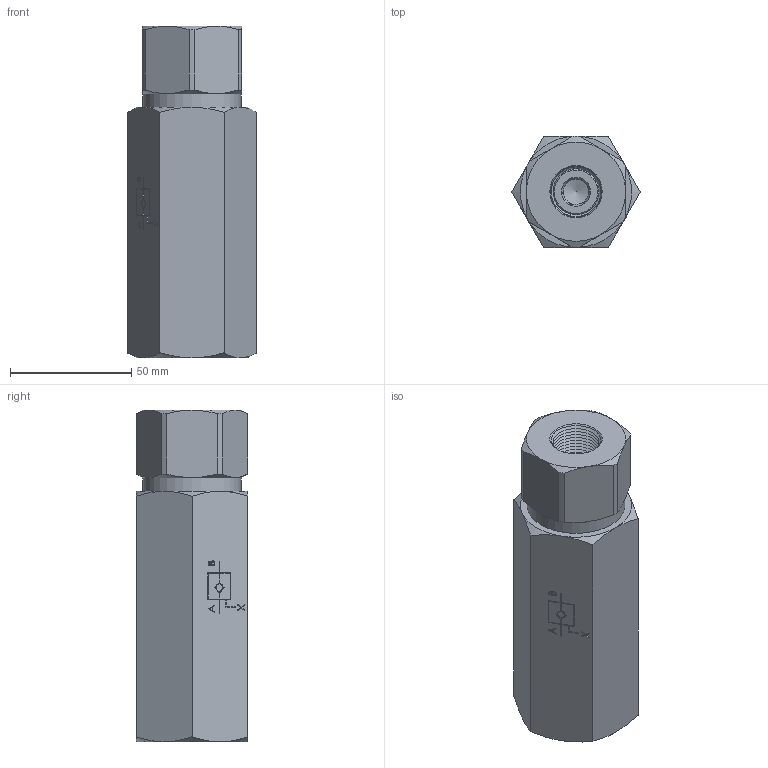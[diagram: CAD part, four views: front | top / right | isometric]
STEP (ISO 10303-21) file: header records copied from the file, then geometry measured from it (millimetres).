
FILE_DESCRIPTION (( 'STEP AP214' ), '1' );
FILE_NAME ('2257-7-12.STEP', '2025-01-23T09:43:07', ( '' ), ( '' ), 'SwSTEP 2.0', 'SolidWorks 2024', '' );
FILE_SCHEMA (( 'AUTOMOTIVE_DESIGN' ));
Length unit declared in the file: millimetre
Products named in the file (9): 2257-7-12; VALVOLA TENUTA METALLICA 2257-5.008.00.1-12; FONDELLO FILETTATO 2257-5.010.00.0-12; ASSIEME 2257-7.041.00.0-12; CORPO VALVOLA 2257-7.001.00.0-12; PISTONE PILOTAGGIO 2257-7.019.00.0-12; OR 3118; MOLLA 2 BAR  257-6.009.00.0-12_COMPRESSA; CONNESSIONE UNIDIREZIONALE 2257-7.033.00.0-12
Assembly tree (8 placements, depth 3):
  2257-7-12
    CORPO VALVOLA 2257-7.001.00.0-12
    ASSIEME 2257-7.041.00.0-12
      CONNESSIONE UNIDIREZIONALE 2257-7.033.00.0-12
      FONDELLO FILETTATO 2257-5.010.00.0-12
      VALVOLA TENUTA METALLICA 2257-5.008.00.1-12
      MOLLA 2 BAR  257-6.009.00.0-12_COMPRESSA
    OR 3118
    PISTONE PILOTAGGIO 2257-7.019.00.0-12
Bounding box: 53.12 x 46 x 137 mm (x, y, z)
Volume: 200368.2 mm3; surface area: 61021.1 mm2
Topology: 7 solids, 7 shells, 645 faces, 1564 edges, 979 vertices
Faces by surface type: plane 291, cone 211, cylinder 79, bspline 61, torus 3
Full cylindrical faces by diameter (mm): 3.024 x1, 4 x6, 5.5 x1, 5.86 x4, 10.75 x1, 11 x2, 14 x1, 15.2 x3, 15.3 x1, 15.5 x1, 16 x5, 18 x4, 18.5 x6, 19 x2, 19.5 x1, 20.783 x4, 21.5 x1, 24.5 x1, 29.2 x3, 30 x6, 31 x3, 40.5 x1
Entity records: 22855 total; most frequent: CARTESIAN_POINT 9106, DIRECTION 2602, ORIENTED_EDGE 2554, EDGE_CURVE 1277, AXIS2_PLACEMENT_3D 963, EDGE_LOOP 960, VERTEX_POINT 933, FACE_OUTER_BOUND 706
